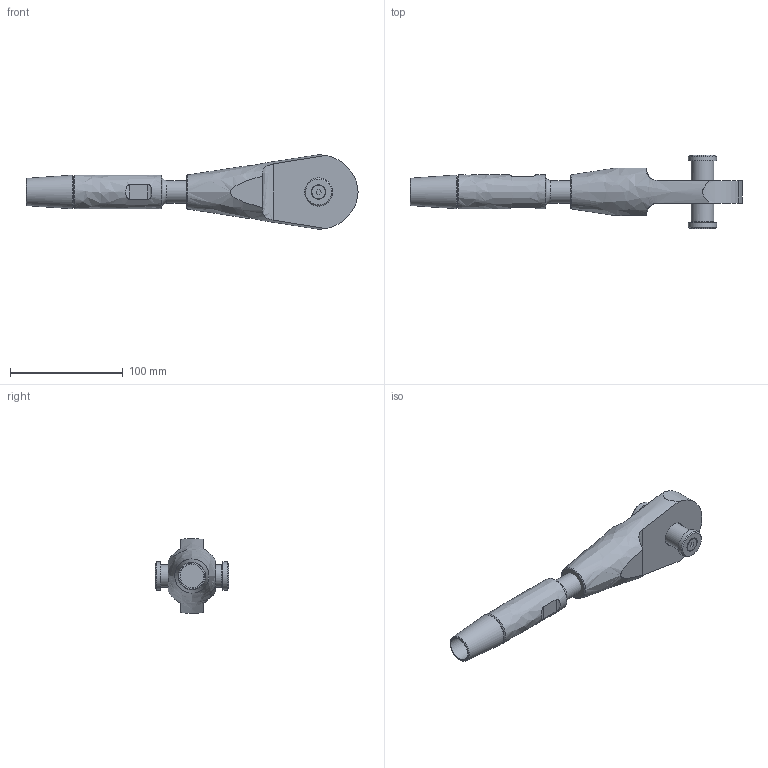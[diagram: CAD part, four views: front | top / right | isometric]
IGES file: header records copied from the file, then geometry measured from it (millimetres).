
Global section: file name: 520-020-OES-ADA; native system: Autodesk Inventor 2020; preprocessor: unknown; author: Administrator; date: 20201007.153359; units: millimetre
Bounding box: 294.5 x 65.22 x 66.02 mm (x, y, z)
Volume: 283849.8 mm3; surface area: 49896.2 mm2
Topology: 6 solids, 6 shells, 63 faces, 151 edges, 105 vertices
Faces by surface type: bspline 63
